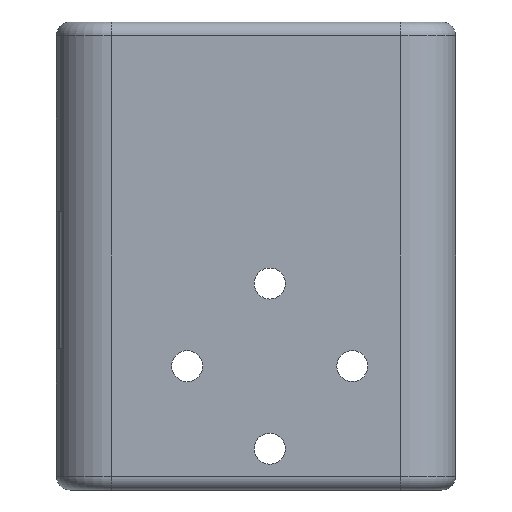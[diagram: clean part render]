
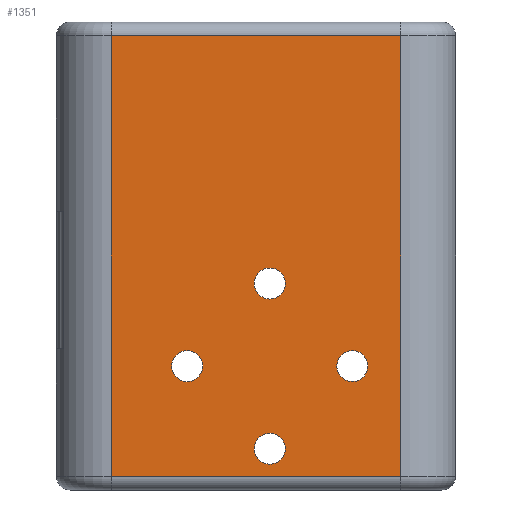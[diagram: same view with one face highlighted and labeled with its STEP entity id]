
A CAD part, front view. The second image highlights one B-rep face of the part: STEP entity #1351.
In plain terms, the highlighted planar face has unit normal (0, -1, 0).
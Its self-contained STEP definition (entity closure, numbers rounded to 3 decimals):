
#25=FACE_BOUND('',#217,.T.);
#26=FACE_BOUND('',#218,.T.);
#27=FACE_BOUND('',#219,.T.);
#28=FACE_BOUND('',#220,.T.);
#54=PLANE('',#1510);
#137=FACE_OUTER_BOUND('',#216,.T.);
#216=EDGE_LOOP('',(#1158,#1159,#1160,#1161));
#217=EDGE_LOOP('',(#1162));
#218=EDGE_LOOP('',(#1163));
#219=EDGE_LOOP('',(#1164));
#220=EDGE_LOOP('',(#1165));
#269=LINE('',#2179,#367);
#281=LINE('',#2282,#379);
#317=LINE('',#2431,#415);
#331=LINE('',#2477,#429);
#367=VECTOR('',#1636,10.);
#379=VECTOR('',#1682,10.);
#415=VECTOR('',#1830,10.);
#429=VECTOR('',#1880,10.);
#518=CIRCLE('',#1511,1.125);
#519=CIRCLE('',#1512,1.125);
#520=CIRCLE('',#1513,1.125);
#521=CIRCLE('',#1514,1.125);
#571=VERTEX_POINT('',#2171);
#573=VERTEX_POINT('',#2177);
#592=VERTEX_POINT('',#2274);
#594=VERTEX_POINT('',#2280);
#644=VERTEX_POINT('',#2479);
#645=VERTEX_POINT('',#2481);
#646=VERTEX_POINT('',#2483);
#647=VERTEX_POINT('',#2485);
#709=EDGE_CURVE('',#573,#571,#269,.T.);
#737=EDGE_CURVE('',#594,#592,#281,.T.);
#806=EDGE_CURVE('',#571,#594,#317,.T.);
#830=EDGE_CURVE('',#592,#573,#331,.T.);
#831=EDGE_CURVE('',#644,#644,#518,.T.);
#832=EDGE_CURVE('',#645,#645,#519,.T.);
#833=EDGE_CURVE('',#646,#646,#520,.T.);
#834=EDGE_CURVE('',#647,#647,#521,.T.);
#1158=ORIENTED_EDGE('',*,*,#709,.F.);
#1159=ORIENTED_EDGE('',*,*,#830,.F.);
#1160=ORIENTED_EDGE('',*,*,#737,.F.);
#1161=ORIENTED_EDGE('',*,*,#806,.F.);
#1162=ORIENTED_EDGE('',*,*,#831,.T.);
#1163=ORIENTED_EDGE('',*,*,#832,.T.);
#1164=ORIENTED_EDGE('',*,*,#833,.T.);
#1165=ORIENTED_EDGE('',*,*,#834,.T.);
#1351=ADVANCED_FACE('',(#137,#25,#26,#27,#28),#54,.T.);
#1510=AXIS2_PLACEMENT_3D('',#2478,#1881,#1882);
#1511=AXIS2_PLACEMENT_3D('',#2480,#1883,#1884);
#1512=AXIS2_PLACEMENT_3D('',#2482,#1885,#1886);
#1513=AXIS2_PLACEMENT_3D('',#2484,#1887,#1888);
#1514=AXIS2_PLACEMENT_3D('',#2486,#1889,#1890);
#1636=DIRECTION('',(1.,0.,0.));
#1682=DIRECTION('',(-1.,0.,0.));
#1830=DIRECTION('',(0.,0.,-1.));
#1880=DIRECTION('',(0.,0.,1.));
#1881=DIRECTION('center_axis',(0.,-1.,0.));
#1882=DIRECTION('ref_axis',(0.,0.,-1.));
#1883=DIRECTION('center_axis',(0.,1.,0.));
#1884=DIRECTION('ref_axis',(-1.,0.,0.));
#1885=DIRECTION('center_axis',(0.,1.,0.));
#1886=DIRECTION('ref_axis',(-1.,0.,0.));
#1887=DIRECTION('center_axis',(0.,1.,0.));
#1888=DIRECTION('ref_axis',(-1.,0.,0.));
#1889=DIRECTION('center_axis',(0.,1.,0.));
#1890=DIRECTION('ref_axis',(-1.,0.,0.));
#2171=CARTESIAN_POINT('',(25.,-15.,16.));
#2177=CARTESIAN_POINT('',(4.,-15.,16.));
#2179=CARTESIAN_POINT('',(0.,-15.,16.));
#2274=CARTESIAN_POINT('',(4.,-15.,-16.));
#2280=CARTESIAN_POINT('',(25.,-15.,-16.));
#2282=CARTESIAN_POINT('',(0.,-15.,-16.));
#2431=CARTESIAN_POINT('',(25.,-15.,8.5));
#2477=CARTESIAN_POINT('',(4.,-15.,8.5));
#2478=CARTESIAN_POINT('Origin',(0.,-15.,17.));
#2479=CARTESIAN_POINT('',(16.625,-15.,-2.));
#2480=CARTESIAN_POINT('Origin',(15.5,-15.,-2.));
#2481=CARTESIAN_POINT('',(16.625,-15.,-14.));
#2482=CARTESIAN_POINT('Origin',(15.5,-15.,-14.));
#2483=CARTESIAN_POINT('',(10.625,-15.,-8.));
#2484=CARTESIAN_POINT('Origin',(9.5,-15.,-8.));
#2485=CARTESIAN_POINT('',(22.625,-15.,-8.));
#2486=CARTESIAN_POINT('Origin',(21.5,-15.,-8.));
